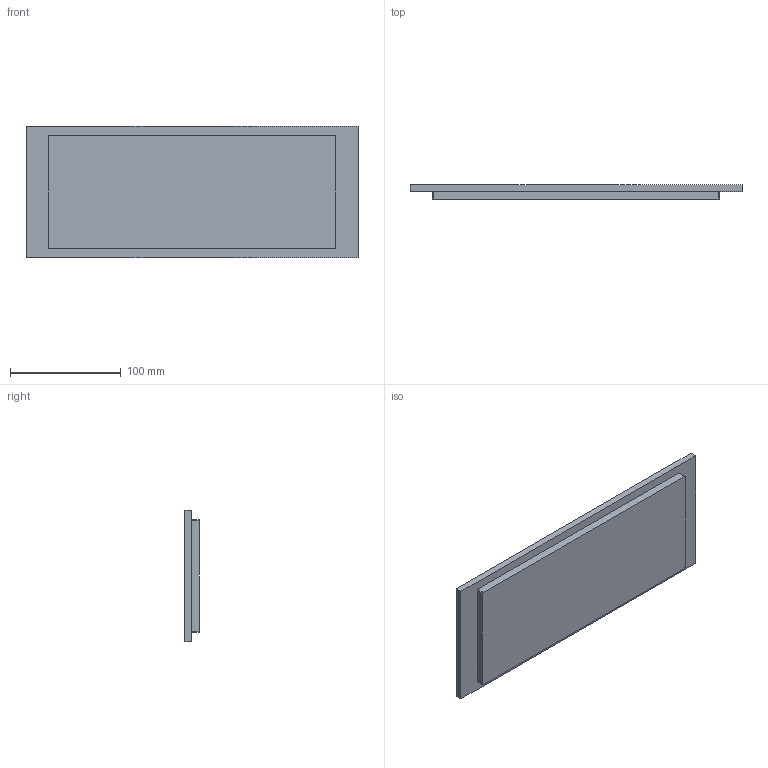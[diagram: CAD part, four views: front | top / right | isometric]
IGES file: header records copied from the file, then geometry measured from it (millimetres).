
Start section: SolidWorks IGES file using analytic representation for surfaces
Global section: file name: G:\Projects\New project\For Marketing\IGS\IGS\2290545VW.IGS; native system: SolidWorks 2010; preprocessor: SolidWorks 2010; author: weijuan; date: 151008.144321; units: inch
Bounding box: 300 x 13 x 119 mm (x, y, z)
Surface area: 81470 mm2 (no closed solid volume)
Topology: 0 solids, 0 shells, 15 faces, 80 edges, 80 vertices
Faces by surface type: bspline 11, revolution 4
